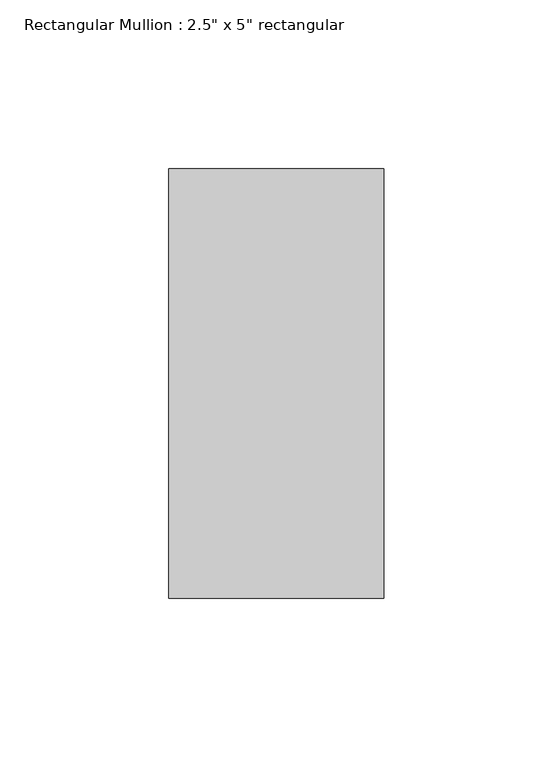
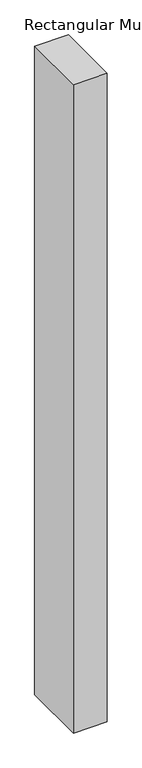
"""IFC4 building model written with IfcOpenShell, lengths in millimetres: member geometry."""

from ifc_helpers import new_model, si_unit, frame, origin, place, context, project, spatial, polyline, outline, extrude, source, transform, mapped, element, save


def member_b8f444c1(model_context):
    return source(origin(), model_context, "Body", "SweptSolid", [
        extrude(outline(polyline([(31.75, 63.5), (31.75, -63.5), (-31.75, -63.5), (-31.75, 63.5), (31.75, 63.5)])), frame((0.0, 0.0, -1295.6590909), z_axis=(0.0, 0.0, 1.0), x_axis=(1.0, 0.0, 0.0)), (0.0, 0.0, 1.0), 1295.6590909),
    ])


if __name__ == "__main__":
    model = new_model("IFC4")
    model_context = context("Model", 3, world=origin())
    ifc_project = project(units=[si_unit("LENGTHUNIT", "METRE", prefix="MILLI")], contexts=[model_context])
    site = spatial("IfcSite", under=ifc_project)
    building = spatial("IfcBuilding", under=site)
    placement = place(None, origin())
    member_shape = member_b8f444c1(model_context)
    element("IfcMember", 1, ObjectType="Rectangular Mullion : 2.5\" x 5\" rectangular", at=placement, inside=building, context=model_context, shape_type="MappedRepresentation", body=[
        mapped(member_shape, transform((0.0, 0.0, 0.0), x_axis=(1.0, 0.0, 0.0), y_axis=(0.0, 1.0, 0.0), z_axis=(0.0, 0.0, 1.0))),
    ])
    save(model, "model.ifc")
